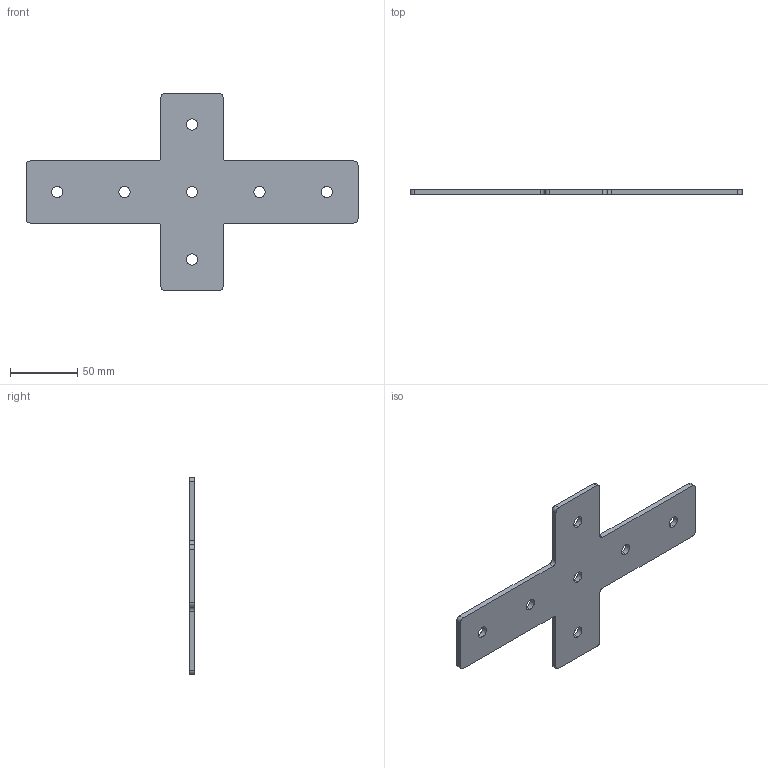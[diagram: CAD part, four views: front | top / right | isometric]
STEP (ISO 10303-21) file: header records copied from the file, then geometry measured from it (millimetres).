
FILE_DESCRIPTION (( 'STEP AP203' ), '1' );
FILE_NAME ('Õ-7-50.STEP', '2017-03-22T11:44:03', ( 'RosInstal-MKM' ), ( '' ), 'SwSTEP 2.0', 'SolidWorks 2014', '' );
FILE_SCHEMA (( 'CONFIG_CONTROL_DESIGN' ));
Length unit declared in the file: millimetre
Products named in the file (1): ﾕ-7-50
Bounding box: 246 x 4 x 146 mm (x, y, z)
Volume: 62044.2 mm3; surface area: 34844 mm2
Topology: 1 solids, 1 shells, 40 faces, 114 edges, 76 vertices
Faces by surface type: cylinder 26, plane 14
Entity records: 1435 total; most frequent: DIRECTION 248, CARTESIAN_POINT 231, ORIENTED_EDGE 228, EDGE_CURVE 114, AXIS2_PLACEMENT_3D 93, VERTEX_POINT 76, VECTOR 62, LINE 62
